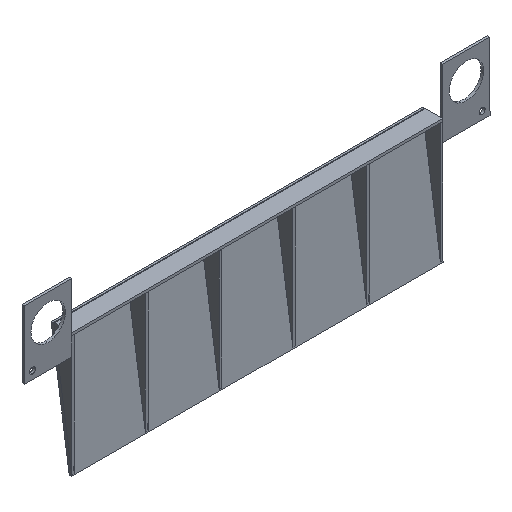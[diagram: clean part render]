
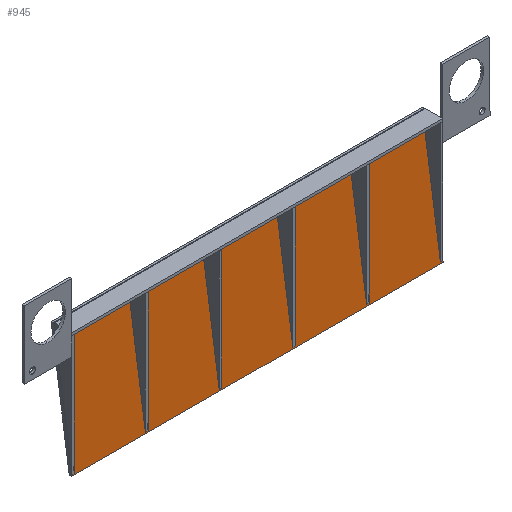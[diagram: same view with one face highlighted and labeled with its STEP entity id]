
A CAD part, isometric view. The second image highlights one B-rep face of the part: STEP entity #945.
In plain terms, the highlighted planar face has unit normal (0, -0.989, 0.145) as drawn and (0, -1, 0) by its records, which use the part's own axes.
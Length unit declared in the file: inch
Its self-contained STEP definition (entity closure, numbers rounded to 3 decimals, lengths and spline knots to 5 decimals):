
#15 = VECTOR ( 'NONE', #654, 39.37008 ) ;
#26 = VERTEX_POINT ( 'NONE', #897 ) ;
#61 = VECTOR ( 'NONE', #335, 39.37008 ) ;
#63 = EDGE_CURVE ( 'NONE', #388, #788, #744, .T. ) ;
#89 = ORIENTED_EDGE ( 'NONE', *, *, #301, .T. ) ;
#104 = CARTESIAN_POINT ( 'NONE',  ( 6., 0., -17.75 ) ) ;
#180 = LINE ( 'NONE', #491, #236 ) ;
#191 = AXIS2_PLACEMENT_3D ( 'NONE', #540, #475, #719 ) ;
#220 = EDGE_LOOP ( 'NONE', ( #257, #731, #89, #787 ) ) ;
#236 = VECTOR ( 'NONE', #415, 39.37008 ) ;
#247 = CARTESIAN_POINT ( 'NONE',  ( 6., 0., -17.75 ) ) ;
#257 = ORIENTED_EDGE ( 'NONE', *, *, #902, .T. ) ;
#263 = CARTESIAN_POINT ( 'NONE',  ( 6., 0., 17.75 ) ) ;
#301 = EDGE_CURVE ( 'NONE', #26, #388, #644, .T. ) ;
#335 = DIRECTION ( 'NONE',  ( 0., 0., 1. ) ) ;
#376 = VECTOR ( 'NONE', #598, 39.37008 ) ;
#388 = VERTEX_POINT ( 'NONE', #263 ) ;
#415 = DIRECTION ( 'NONE',  ( 0., 0., -1. ) ) ;
#475 = DIRECTION ( 'NONE',  ( 0., -1., 0. ) ) ;
#491 = CARTESIAN_POINT ( 'NONE',  ( -6., 0., -17.75 ) ) ;
#532 = CARTESIAN_POINT ( 'NONE',  ( -6., 0., 17.75 ) ) ;
#540 = CARTESIAN_POINT ( 'NONE',  ( 6., 0., -17.75 ) ) ;
#544 = CARTESIAN_POINT ( 'NONE',  ( -6., 0., -17.75 ) ) ;
#567 = PLANE ( 'NONE',  #191 ) ;
#568 = LINE ( 'NONE', #104, #15 ) ;
#583 = CARTESIAN_POINT ( 'NONE',  ( 6., 0., 17.75 ) ) ;
#598 = DIRECTION ( 'NONE',  ( -1., 0., 0. ) ) ;
#644 = LINE ( 'NONE', #247, #61 ) ;
#654 = DIRECTION ( 'NONE',  ( 1., 0., 0. ) ) ;
#688 = EDGE_CURVE ( 'NONE', #780, #26, #568, .T. ) ;
#696 = FACE_OUTER_BOUND ( 'NONE', #220, .T. ) ;
#719 = DIRECTION ( 'NONE',  ( 0., 0., -1. ) ) ;
#731 = ORIENTED_EDGE ( 'NONE', *, *, #688, .T. ) ;
#744 = LINE ( 'NONE', #583, #376 ) ;
#780 = VERTEX_POINT ( 'NONE', #544 ) ;
#787 = ORIENTED_EDGE ( 'NONE', *, *, #63, .T. ) ;
#788 = VERTEX_POINT ( 'NONE', #532 ) ;
#897 = CARTESIAN_POINT ( 'NONE',  ( 6., 0., -17.75 ) ) ;
#902 = EDGE_CURVE ( 'NONE', #788, #780, #180, .T. ) ;
#945 = ADVANCED_FACE ( 'NONE', ( #696 ), #567, .T. ) ;
